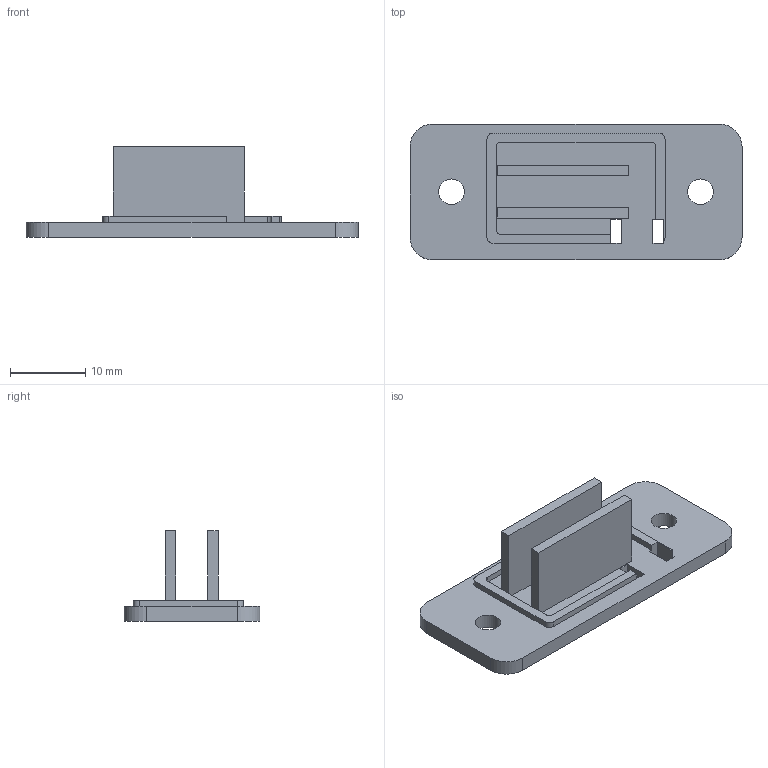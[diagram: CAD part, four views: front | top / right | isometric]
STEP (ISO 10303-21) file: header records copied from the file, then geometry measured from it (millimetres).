
FILE_DESCRIPTION(('Open CASCADE Model'),'2;1');
FILE_NAME('Open CASCADE Shape Model','2026-10-14T21:49:17',('Author'),( 'Open CASCADE'),'Open CASCADE STEP processor 7.9','Open CASCADE 7.9' ,'Unknown');
FILE_SCHEMA(('AUTOMOTIVE_DESIGN { 1 0 10303 214 1 1 1 1 }'));
Length unit declared in the file: millimetre
Products named in the file (1): Open CASCADE STEP translator 7.9 4
Bounding box: 44 x 18 x 12 mm (x, y, z)
Volume: 2061.7 mm3; surface area: 2688.4 mm2
Topology: 1 solids, 1 shells, 46 faces, 128 edges, 85 vertices
Faces by surface type: plane 33, cylinder 13
Full cylindrical faces by diameter (mm): 3.4 x2
Entity records: 3144 total; most frequent: CARTESIAN_POINT 640, DIRECTION 440, LINE 280, VECTOR 280, ORIENTED_EDGE 256, PCURVE 256, DEFINITIONAL_REPRESENTATION 256, EDGE_CURVE 128
